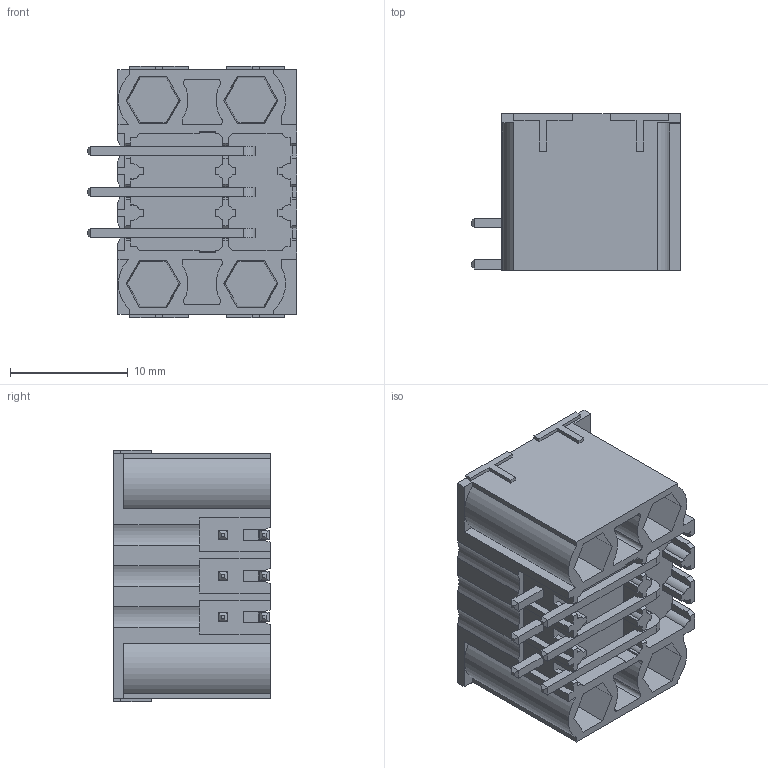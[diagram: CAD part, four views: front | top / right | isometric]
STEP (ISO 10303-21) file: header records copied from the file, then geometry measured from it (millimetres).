
FILE_DESCRIPTION((''),'2;1');
FILE_NAME('333','2019-04-12T',('zhenbing.lai'),(''),'CREO PARAMETRIC BY PTC INC, 2016260','CREO PARAMETRIC BY PTC INC, 2016260','');
FILE_SCHEMA(('CONFIG_CONTROL_DESIGN'));
Length unit declared in the file: millimetre
Products named in the file (1): 333
Bounding box: 17.8 x 13.3 x 21.4 mm (x, y, z)
Volume: 2507.9 mm3; surface area: 3654.4 mm2
Topology: 1 solids, 1 shells, 667 faces, 1821 edges, 1187 vertices
Faces by surface type: plane 597, cylinder 56, cone 14
Entity records: 20756 total; most frequent: CARTESIAN_POINT 3729, ORIENTED_EDGE 3642, DIRECTION 3304, EDGE_CURVE 1821, VECTOR 1648, LINE 1648, VERTEX_POINT 1187, AXIS2_PLACEMENT_3D 828
